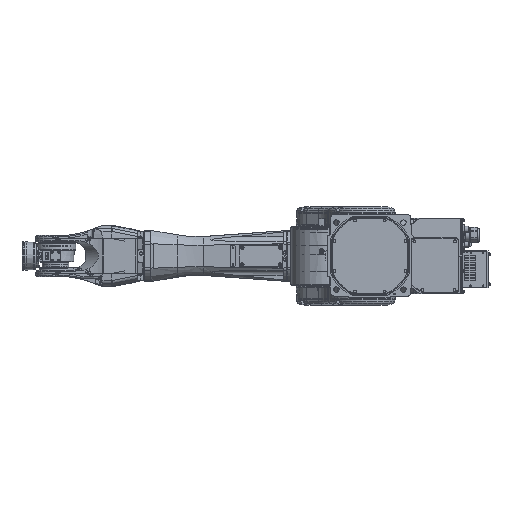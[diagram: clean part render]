
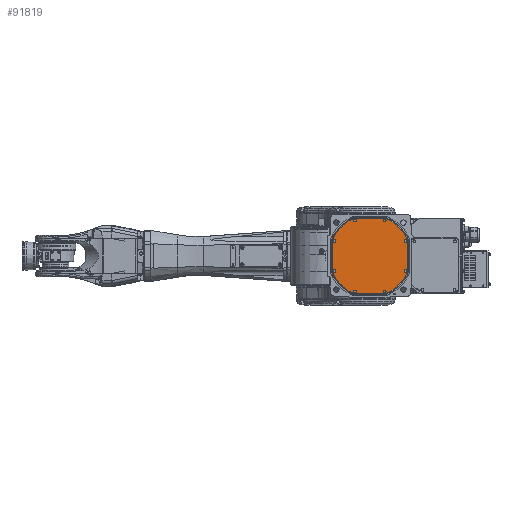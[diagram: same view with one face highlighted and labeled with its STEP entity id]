
A CAD part, front view. The second image highlights one B-rep face of the part: STEP entity #91819.
In plain terms, the highlighted planar face has unit normal (0, -1, 0).
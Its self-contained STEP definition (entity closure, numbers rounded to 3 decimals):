
#4057=LINE('',#125675,#9401);
#4062=LINE('',#125691,#9406);
#4067=LINE('',#125707,#9411);
#4072=LINE('',#125723,#9416);
#9401=VECTOR('',#105295,1000.);
#9406=VECTOR('',#105314,1000.);
#9411=VECTOR('',#105333,1000.);
#9416=VECTOR('',#105352,1000.);
#16213=ORIENTED_EDGE('',*,*,#33872,.F.);
#16214=ORIENTED_EDGE('',*,*,#33873,.F.);
#16215=ORIENTED_EDGE('',*,*,#33874,.F.);
#16216=ORIENTED_EDGE('',*,*,#33875,.F.);
#16217=ORIENTED_EDGE('',*,*,#33876,.F.);
#16218=ORIENTED_EDGE('',*,*,#33877,.F.);
#16219=ORIENTED_EDGE('',*,*,#33878,.F.);
#16220=ORIENTED_EDGE('',*,*,#33879,.F.);
#16221=ORIENTED_EDGE('',*,*,#33841,.F.);
#16222=ORIENTED_EDGE('',*,*,#33871,.F.);
#16223=ORIENTED_EDGE('',*,*,#33869,.F.);
#16224=ORIENTED_EDGE('',*,*,#33867,.F.);
#16225=ORIENTED_EDGE('',*,*,#33865,.F.);
#16226=ORIENTED_EDGE('',*,*,#33863,.F.);
#16227=ORIENTED_EDGE('',*,*,#33861,.F.);
#16228=ORIENTED_EDGE('',*,*,#33859,.F.);
#16229=ORIENTED_EDGE('',*,*,#33857,.F.);
#16230=ORIENTED_EDGE('',*,*,#33855,.F.);
#16231=ORIENTED_EDGE('',*,*,#33853,.F.);
#16232=ORIENTED_EDGE('',*,*,#33851,.F.);
#16233=ORIENTED_EDGE('',*,*,#33849,.F.);
#16234=ORIENTED_EDGE('',*,*,#33847,.F.);
#16235=ORIENTED_EDGE('',*,*,#33845,.F.);
#16236=ORIENTED_EDGE('',*,*,#33843,.F.);
#33841=EDGE_CURVE('',#42815,#42816,#48608,.T.);
#33843=EDGE_CURVE('',#42816,#42817,#4057,.T.);
#33845=EDGE_CURVE('',#42817,#42818,#48609,.T.);
#33847=EDGE_CURVE('',#42818,#42819,#48610,.T.);
#33849=EDGE_CURVE('',#42819,#42820,#48611,.T.);
#33851=EDGE_CURVE('',#42820,#42821,#4062,.T.);
#33853=EDGE_CURVE('',#42821,#42822,#48612,.T.);
#33855=EDGE_CURVE('',#42822,#42823,#48613,.T.);
#33857=EDGE_CURVE('',#42823,#42824,#48614,.T.);
#33859=EDGE_CURVE('',#42824,#42825,#4067,.T.);
#33861=EDGE_CURVE('',#42825,#42826,#48615,.T.);
#33863=EDGE_CURVE('',#42826,#42827,#48616,.T.);
#33865=EDGE_CURVE('',#42827,#42828,#48617,.T.);
#33867=EDGE_CURVE('',#42828,#42829,#4072,.T.);
#33869=EDGE_CURVE('',#42829,#42830,#48618,.T.);
#33871=EDGE_CURVE('',#42830,#42815,#48619,.T.);
#33872=EDGE_CURVE('',#42831,#42831,#48620,.T.);
#33873=EDGE_CURVE('',#42832,#42832,#48621,.T.);
#33874=EDGE_CURVE('',#42833,#42833,#48622,.T.);
#33875=EDGE_CURVE('',#42834,#42834,#48623,.T.);
#33876=EDGE_CURVE('',#42835,#42835,#48624,.T.);
#33877=EDGE_CURVE('',#42836,#42836,#48625,.T.);
#33878=EDGE_CURVE('',#42837,#42837,#48626,.T.);
#33879=EDGE_CURVE('',#42838,#42838,#48627,.T.);
#42815=VERTEX_POINT('',#125670);
#42816=VERTEX_POINT('',#125672);
#42817=VERTEX_POINT('',#125676);
#42818=VERTEX_POINT('',#125680);
#42819=VERTEX_POINT('',#125684);
#42820=VERTEX_POINT('',#125688);
#42821=VERTEX_POINT('',#125692);
#42822=VERTEX_POINT('',#125696);
#42823=VERTEX_POINT('',#125700);
#42824=VERTEX_POINT('',#125704);
#42825=VERTEX_POINT('',#125708);
#42826=VERTEX_POINT('',#125712);
#42827=VERTEX_POINT('',#125716);
#42828=VERTEX_POINT('',#125720);
#42829=VERTEX_POINT('',#125724);
#42830=VERTEX_POINT('',#125728);
#42831=VERTEX_POINT('',#125734);
#42832=VERTEX_POINT('',#125736);
#42833=VERTEX_POINT('',#125738);
#42834=VERTEX_POINT('',#125740);
#42835=VERTEX_POINT('',#125742);
#42836=VERTEX_POINT('',#125744);
#42837=VERTEX_POINT('',#125746);
#42838=VERTEX_POINT('',#125748);
#48608=CIRCLE('',#96338,4.7);
#48609=CIRCLE('',#96341,4.7);
#48610=CIRCLE('',#96343,97.7);
#48611=CIRCLE('',#96345,4.7);
#48612=CIRCLE('',#96348,4.7);
#48613=CIRCLE('',#96350,97.7);
#48614=CIRCLE('',#96352,4.7);
#48615=CIRCLE('',#96355,4.7);
#48616=CIRCLE('',#96357,97.7);
#48617=CIRCLE('',#96359,4.7);
#48618=CIRCLE('',#96362,4.7);
#48619=CIRCLE('',#96364,97.7);
#48620=CIRCLE('',#96366,3.4);
#48621=CIRCLE('',#96367,3.4);
#48622=CIRCLE('',#96368,3.4);
#48623=CIRCLE('',#96369,3.4);
#48624=CIRCLE('',#96370,3.4);
#48625=CIRCLE('',#96371,3.4);
#48626=CIRCLE('',#96372,3.4);
#48627=CIRCLE('',#96373,3.4);
#51463=EDGE_LOOP('',(#16213));
#51464=EDGE_LOOP('',(#16214));
#51465=EDGE_LOOP('',(#16215));
#51466=EDGE_LOOP('',(#16216));
#51467=EDGE_LOOP('',(#16217));
#51468=EDGE_LOOP('',(#16218));
#51469=EDGE_LOOP('',(#16219));
#51470=EDGE_LOOP('',(#16220));
#51471=EDGE_LOOP('',(#16221,#16222,#16223,#16224,#16225,#16226,#16227,#16228,
#16229,#16230,#16231,#16232,#16233,#16234,#16235,#16236));
#56696=FACE_BOUND('',#51463,.T.);
#56697=FACE_BOUND('',#51464,.T.);
#56698=FACE_BOUND('',#51465,.T.);
#56699=FACE_BOUND('',#51466,.T.);
#56700=FACE_BOUND('',#51467,.T.);
#56701=FACE_BOUND('',#51468,.T.);
#56702=FACE_BOUND('',#51469,.T.);
#56703=FACE_BOUND('',#51470,.T.);
#56704=FACE_BOUND('',#51471,.T.);
#61626=PLANE('',#96365);
#91819=ADVANCED_FACE('',(#56696,#56697,#56698,#56699,#56700,#56701,#56702,
#56703,#56704),#61626,.F.);
#96338=AXIS2_PLACEMENT_3D('',#125671,#105290,#105291);
#96341=AXIS2_PLACEMENT_3D('',#125679,#105299,#105300);
#96343=AXIS2_PLACEMENT_3D('',#125683,#105304,#105305);
#96345=AXIS2_PLACEMENT_3D('',#125687,#105309,#105310);
#96348=AXIS2_PLACEMENT_3D('',#125695,#105318,#105319);
#96350=AXIS2_PLACEMENT_3D('',#125699,#105323,#105324);
#96352=AXIS2_PLACEMENT_3D('',#125703,#105328,#105329);
#96355=AXIS2_PLACEMENT_3D('',#125711,#105337,#105338);
#96357=AXIS2_PLACEMENT_3D('',#125715,#105342,#105343);
#96359=AXIS2_PLACEMENT_3D('',#125719,#105347,#105348);
#96362=AXIS2_PLACEMENT_3D('',#125727,#105356,#105357);
#96364=AXIS2_PLACEMENT_3D('',#125731,#105361,#105362);
#96365=AXIS2_PLACEMENT_3D('',#125732,#105363,#105364);
#96366=AXIS2_PLACEMENT_3D('',#125733,#105365,#105366);
#96367=AXIS2_PLACEMENT_3D('',#125735,#105367,#105368);
#96368=AXIS2_PLACEMENT_3D('',#125737,#105369,#105370);
#96369=AXIS2_PLACEMENT_3D('',#125739,#105371,#105372);
#96370=AXIS2_PLACEMENT_3D('',#125741,#105373,#105374);
#96371=AXIS2_PLACEMENT_3D('',#125743,#105375,#105376);
#96372=AXIS2_PLACEMENT_3D('',#125745,#105377,#105378);
#96373=AXIS2_PLACEMENT_3D('',#125747,#105379,#105380);
#105290=DIRECTION('',(0.,1.,0.));
#105291=DIRECTION('',(0.,0.,1.));
#105295=DIRECTION('',(0.,0.,1.));
#105299=DIRECTION('',(0.,1.,0.));
#105300=DIRECTION('',(0.,0.,1.));
#105304=DIRECTION('',(0.,1.,0.));
#105305=DIRECTION('',(0.,0.,1.));
#105309=DIRECTION('',(0.,1.,0.));
#105310=DIRECTION('',(0.,0.,1.));
#105314=DIRECTION('',(1.,0.,0.));
#105318=DIRECTION('',(0.,1.,0.));
#105319=DIRECTION('',(0.,0.,1.));
#105323=DIRECTION('',(0.,1.,0.));
#105324=DIRECTION('',(0.,0.,1.));
#105328=DIRECTION('',(0.,1.,0.));
#105329=DIRECTION('',(0.,0.,1.));
#105333=DIRECTION('',(0.,0.,-1.));
#105337=DIRECTION('',(0.,1.,0.));
#105338=DIRECTION('',(0.,0.,1.));
#105342=DIRECTION('',(0.,1.,0.));
#105343=DIRECTION('',(0.,0.,1.));
#105347=DIRECTION('',(0.,1.,0.));
#105348=DIRECTION('',(0.,0.,1.));
#105352=DIRECTION('',(-1.,0.,0.));
#105356=DIRECTION('',(0.,1.,0.));
#105357=DIRECTION('',(0.,0.,1.));
#105361=DIRECTION('',(0.,1.,0.));
#105362=DIRECTION('',(0.,0.,1.));
#105363=DIRECTION('',(0.,1.,0.));
#105364=DIRECTION('',(0.,0.,1.));
#105365=DIRECTION('',(0.,-1.,0.));
#105366=DIRECTION('',(0.,0.,-1.));
#105367=DIRECTION('',(0.,-1.,0.));
#105368=DIRECTION('',(0.,0.,-1.));
#105369=DIRECTION('',(0.,-1.,0.));
#105370=DIRECTION('',(0.,0.,-1.));
#105371=DIRECTION('',(0.,-1.,0.));
#105372=DIRECTION('',(0.,0.,-1.));
#105373=DIRECTION('',(0.,-1.,0.));
#105374=DIRECTION('',(0.,0.,-1.));
#105375=DIRECTION('',(0.,-1.,0.));
#105376=DIRECTION('',(0.,0.,-1.));
#105377=DIRECTION('',(0.,-1.,0.));
#105378=DIRECTION('',(0.,0.,-1.));
#105379=DIRECTION('',(0.,-1.,0.));
#105380=DIRECTION('',(0.,0.,-1.));
#125670=CARTESIAN_POINT('',(-89.296,5.,-39.643));
#125671=CARTESIAN_POINT('',(-85.,5.,-37.736));
#125672=CARTESIAN_POINT('',(-89.7,5.,-37.736));
#125675=CARTESIAN_POINT('',(-89.7,5.,-37.736));
#125676=CARTESIAN_POINT('',(-89.7,5.,37.736));
#125679=CARTESIAN_POINT('',(-85.,5.,37.736));
#125680=CARTESIAN_POINT('',(-89.296,5.,39.643));
#125683=CARTESIAN_POINT('',(0.,5.,0.));
#125684=CARTESIAN_POINT('',(-39.643,5.,89.296));
#125687=CARTESIAN_POINT('',(-37.736,5.,85.));
#125688=CARTESIAN_POINT('',(-37.736,5.,89.7));
#125691=CARTESIAN_POINT('',(-85.,5.,89.7));
#125692=CARTESIAN_POINT('',(37.736,5.,89.7));
#125695=CARTESIAN_POINT('',(37.736,5.,85.));
#125696=CARTESIAN_POINT('',(39.643,5.,89.296));
#125699=CARTESIAN_POINT('',(0.,5.,0.));
#125700=CARTESIAN_POINT('',(89.296,5.,39.643));
#125703=CARTESIAN_POINT('',(85.,5.,37.736));
#125704=CARTESIAN_POINT('',(89.7,5.,37.736));
#125707=CARTESIAN_POINT('',(89.7,5.,-37.736));
#125708=CARTESIAN_POINT('',(89.7,5.,-37.736));
#125711=CARTESIAN_POINT('',(85.,5.,-37.736));
#125712=CARTESIAN_POINT('',(89.296,5.,-39.643));
#125715=CARTESIAN_POINT('',(0.,5.,0.));
#125716=CARTESIAN_POINT('',(39.643,5.,-89.296));
#125719=CARTESIAN_POINT('',(37.736,5.,-85.));
#125720=CARTESIAN_POINT('',(37.736,5.,-89.7));
#125723=CARTESIAN_POINT('',(-85.,5.,-89.7));
#125724=CARTESIAN_POINT('',(-37.736,5.,-89.7));
#125727=CARTESIAN_POINT('',(-37.736,5.,-85.));
#125728=CARTESIAN_POINT('',(-39.643,5.,-89.296));
#125731=CARTESIAN_POINT('',(0.,5.,0.));
#125732=CARTESIAN_POINT('',(-85.,5.,-37.736));
#125733=CARTESIAN_POINT('',(35.207,5.,-84.997));
#125734=CARTESIAN_POINT('',(35.207,5.,-88.397));
#125735=CARTESIAN_POINT('',(84.997,5.,-35.207));
#125736=CARTESIAN_POINT('',(84.997,5.,-38.607));
#125737=CARTESIAN_POINT('',(84.997,5.,35.207));
#125738=CARTESIAN_POINT('',(84.997,5.,31.807));
#125739=CARTESIAN_POINT('',(35.207,5.,84.997));
#125740=CARTESIAN_POINT('',(35.207,5.,81.597));
#125741=CARTESIAN_POINT('',(-35.207,5.,84.997));
#125742=CARTESIAN_POINT('',(-35.207,5.,81.597));
#125743=CARTESIAN_POINT('',(-84.997,5.,35.207));
#125744=CARTESIAN_POINT('',(-84.997,5.,31.807));
#125745=CARTESIAN_POINT('',(-84.997,5.,-35.207));
#125746=CARTESIAN_POINT('',(-84.997,5.,-38.607));
#125747=CARTESIAN_POINT('',(-35.207,5.,-84.997));
#125748=CARTESIAN_POINT('',(-35.207,5.,-88.397));
